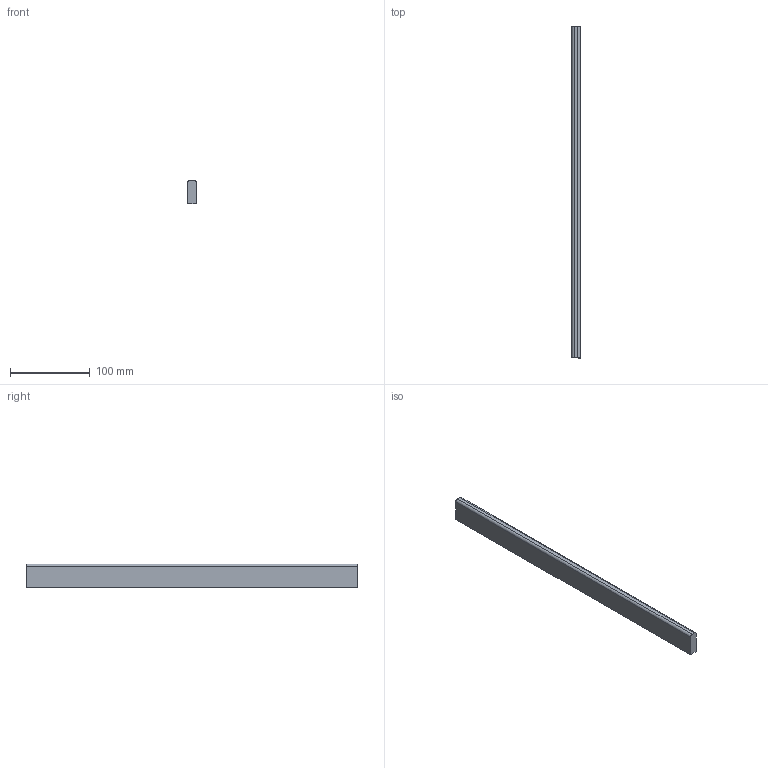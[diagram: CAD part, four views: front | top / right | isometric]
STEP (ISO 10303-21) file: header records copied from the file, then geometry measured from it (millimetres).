
FILE_DESCRIPTION (( 'STEP AP214' ), '1' );
FILE_NAME ('_Seitenreling_SP60701200_RL417,1.step', '2010-09-06T14:51:58', ( 'grass' ), ( '' ), 'SwSTEP 2.0', 'SolidWorks 2010', '' );
FILE_SCHEMA (( 'AUTOMOTIVE_DESIGN' ));
Length unit declared in the file: millimetre
Products named in the file (1): _Seitenreling_SP60701200_RL417,1
Bounding box: 10.5 x 417.1 x 30 mm (x, y, z)
Volume: 129775.3 mm3; surface area: 33333.2 mm2
Topology: 1 solids, 1 shells, 8 faces, 18 edges, 12 vertices
Faces by surface type: plane 6, cylinder 2
Entity records: 260 total; most frequent: DIRECTION 40, CARTESIAN_POINT 39, ORIENTED_EDGE 36, EDGE_CURVE 18, VECTOR 14, LINE 14, AXIS2_PLACEMENT_3D 13, VERTEX_POINT 12
